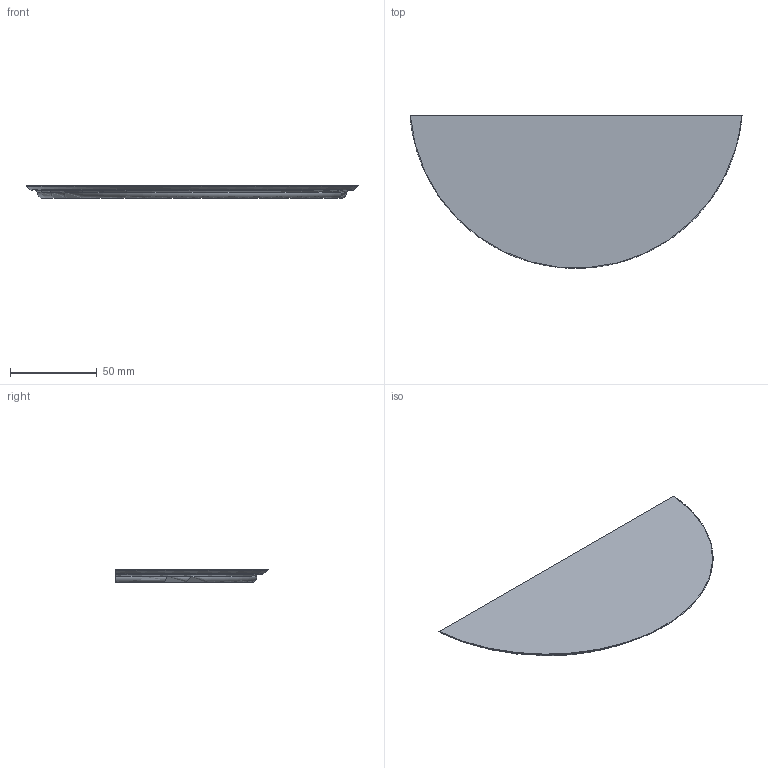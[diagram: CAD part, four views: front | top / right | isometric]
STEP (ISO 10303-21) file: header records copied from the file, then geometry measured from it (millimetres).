
FILE_DESCRIPTION(/* description */ ('STEP AP242 Edition 2','CAx-IF Rec.Pracs.---Representation and Presentation of Product Manufacturing Information (PMI)---4.0---2014-10-13','CAx-IF Rec.Pracs.---3D Tessellated Geometry---0.4---2014-09-14','2;1','CAx-IF Rec.Pracs.---User Defined Attributes---1.5---2016-08-15'),/* implementation_level */ '2;1');
FILE_NAME(/* name */ 'Part Studio 1 - Print Optimized Front Seal',/* time_stamp */ '2026-06-01T05:47:40Z',/* author */ (''),/* organization */ (''),/* preprocessor_version */ 'ST-DEVELOPER v20',/* originating_system */ 'ONSHAPE BY PTC INC, 1.215',/* authorisation */ ' ');
FILE_SCHEMA (('AP242_MANAGED_MODEL_BASED_3D_ENGINEERING_MIM_LF { 1 0 10303 442 3 1 4 }'));
Length unit declared in the file: millimetre
Products named in the file (1): Print Optimized Front Seal
Bounding box: 191.54 x 88.1 x 7.43 mm (x, y, z)
Volume: 46266.1 mm3; surface area: 29112.5 mm2
Topology: 1 solids, 1 shells, 15 faces, 39 edges, 26 vertices
Faces by surface type: torus 5, bspline 4, plane 3, cone 2, cylinder 1
Entity records: 1117 total; most frequent: CARTESIAN_POINT 786, ORIENTED_EDGE 78, DIRECTION 43, EDGE_CURVE 39, B_SPLINE_CURVE_WITH_KNOTS 27, VERTEX_POINT 26, AXIS2_PLACEMENT_3D 19, EDGE_LOOP 15
